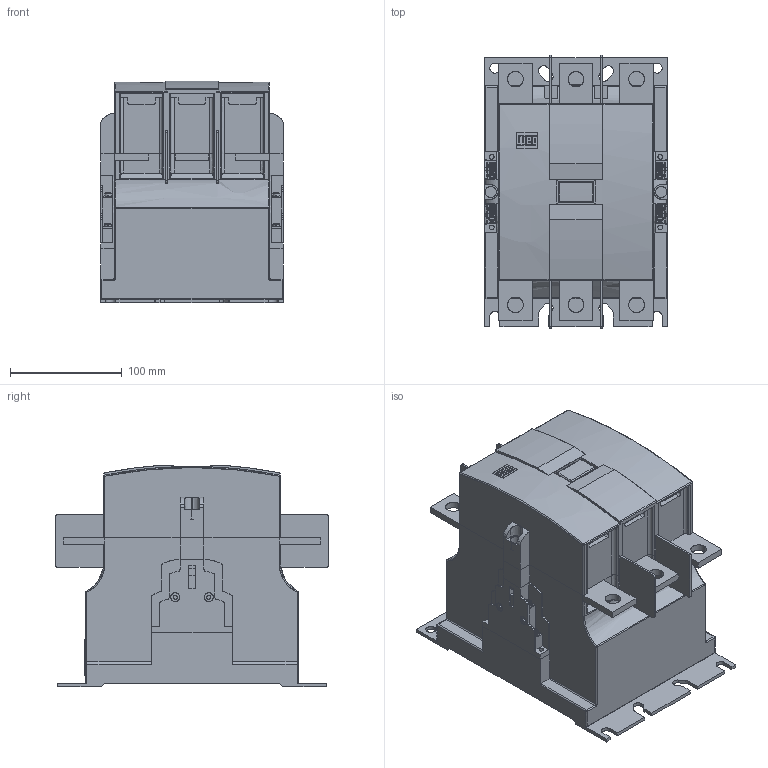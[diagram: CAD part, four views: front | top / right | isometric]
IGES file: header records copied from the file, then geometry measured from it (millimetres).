
Start section: SolidWorks IGES file using analytic representation for surfaces
Global section: file name: Q:\GROUPS\BR_SC_JGS_WA_TECNICO\ENG\Usuarios\Rodrigob\conversão\contatores\CWME400\CWME400 (400A AC-3).IGS; native system: SolidWorks 2009; preprocessor: SolidWorks 2009; author: rodrigob; date: 100222.111803; units: millimetre
Bounding box: 163 x 244.35 x 198.39 mm (x, y, z)
Surface area: 252532.9 mm2 (no closed solid volume)
Topology: 0 solids, 0 shells, 887 faces, 8760 edges, 8756 vertices
Faces by surface type: bspline 613, revolution 274
